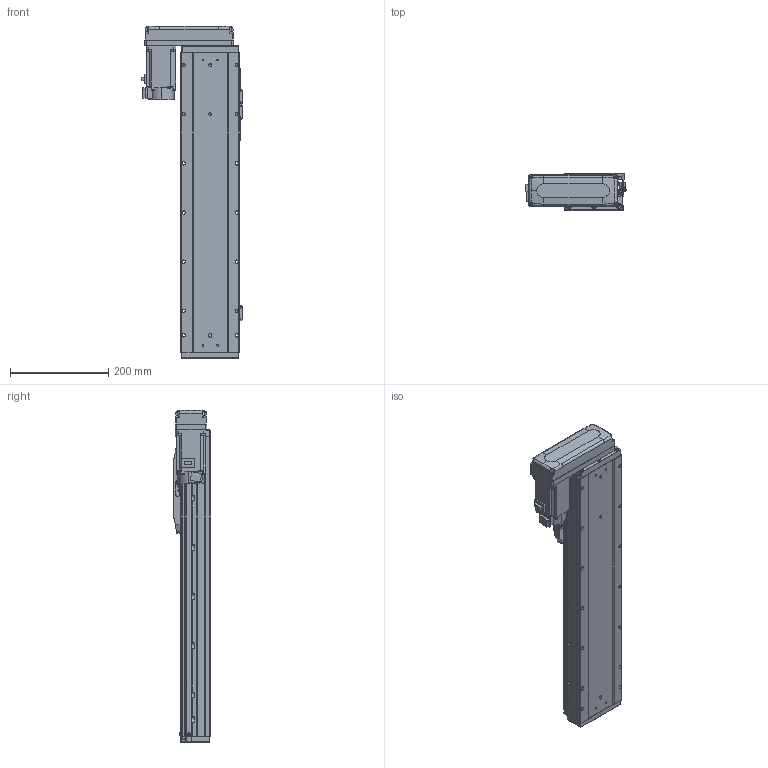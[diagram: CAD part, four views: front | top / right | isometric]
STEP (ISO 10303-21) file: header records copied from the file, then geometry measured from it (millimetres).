
FILE_DESCRIPTION (( 'STEP AP203' ), '1' );
FILE_NAME ('GTH12-400-BR-M40-C4.step', '2023-07-05T00:05:54', ( '微软用户' ), ( '微软中国' ), 'SwSTEP 2.0', 'SolidWorks 2020', '' );
FILE_SCHEMA (( 'CONFIG_CONTROL_DESIGN' ));
Length unit declared in the file: millimetre
Products named in the file (18): GTH120-006; GTH80-028; GTH120-027-1_GTH120-027-2; GTH120-004; GTH50-023; GTH12-400-BR-M40-C4; GTH120-013; GTH50-024; GBT 70.1-M3℅6; GBT96.1-2002 3×0.8; GBT 70.1-M5×16; BTH-M3X5X6; GTH120-001_400; GBT 70.3-M3℅8; hg-kn43j_-s100_; GTH120-003; GTH80-022; CTHA86-033_M40B
Assembly tree (59 placements, depth 2):
  GTH12-400-BR-M40-C4
    GTH120-001_400
    GTH120-003
    GTH120-006
    GTH120-004
    GTH120-013
    GBT 70.1-M3℅6  x14
    GBT 70.1-M5×16  x10
    GBT 70.3-M3℅8  x4
    GTH80-022
    GTH80-028  x2
    GTH50-023  x3
    GTH50-024  x3
    GBT96.1-2002 3×0.8  x6
    BTH-M3X5X6  x8
    hg-kn43j_-s100_
    CTHA86-033_M40B
    GTH120-027-1_GTH120-027-2
Bounding box: 203.5 x 76 x 675.5 mm (x, y, z)
Volume: 5256316.9 mm3; surface area: 532157 mm2
Topology: 61 solids, 61 shells, 2405 faces, 5594 edges, 3431 vertices
Faces by surface type: plane 1246, cylinder 687, cone 284, torus 174, sphere 8, bspline 6
Entity records: 44380 total; most frequent: CARTESIAN_POINT 7516, DIRECTION 7326, ORIENTED_EDGE 6798, EDGE_CURVE 3399, AXIS2_PLACEMENT_3D 2562, VECTOR 2202, LINE 2202, VERTEX_POINT 2152
